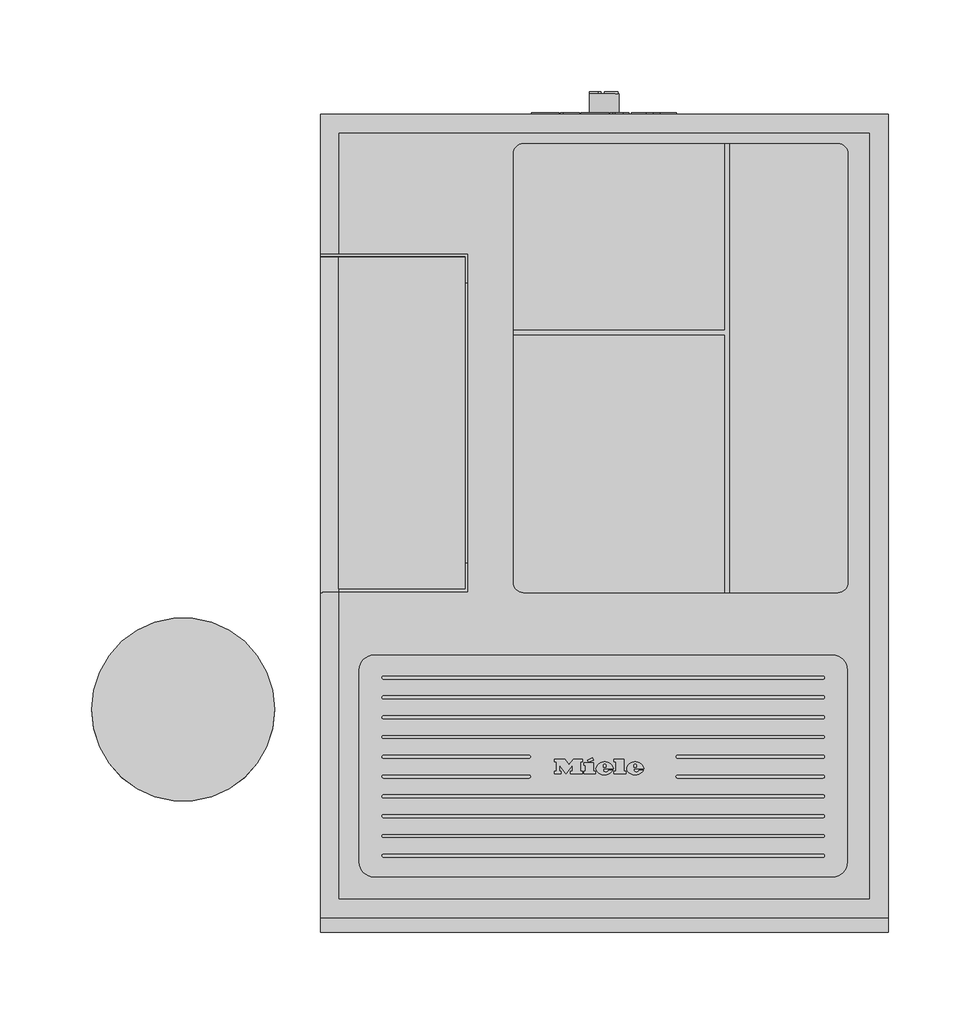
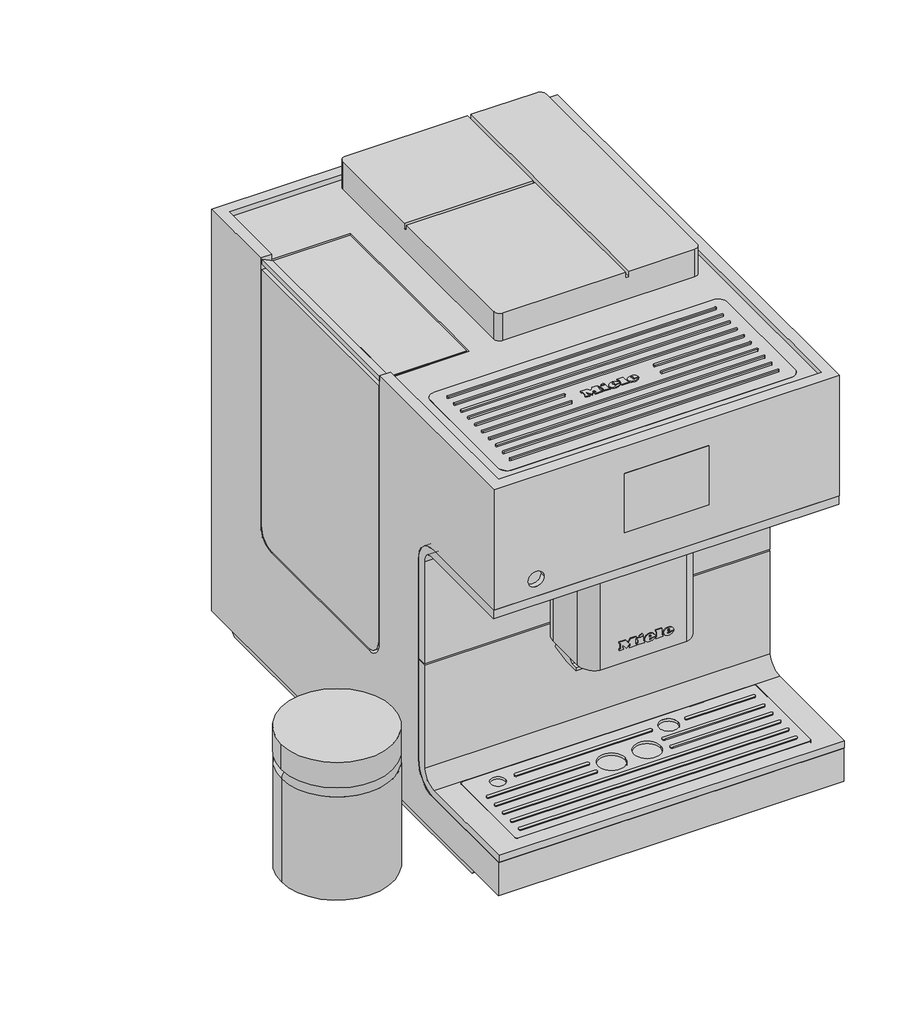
# Not in any storey: 1 proxy.
"""IFC4 building model written with IfcOpenShell, lengths in millimetres."""

from ifc_helpers import new_model, si_unit, origin, place, context, project, spatial, transform, mapped, element, save
from components import specialty_equipment_da40dc9f, specialty_equipment_1049582b, specialty_equipment_5a334f16

model = new_model("IFC4")

# Units and contexts
model_context = context("Model", 3, world=origin())
ifc_project = project(units=[si_unit("LENGTHUNIT", "METRE", prefix="MILLI")], contexts=[model_context])

# Site, building
site = spatial("IfcSite", under=ifc_project)
building = spatial("IfcBuilding", under=site)

# Proxy
placement = place(None, origin())
specialty_equipment_shape = specialty_equipment_da40dc9f(model_context)
specialty_equipment_2_shape = specialty_equipment_1049582b(model_context)
specialty_equipment_3_shape = specialty_equipment_5a334f16(model_context)
element("IfcBuildingElementProxy", 1, Name="11030140_NL_CM7750_OBSW : 29775020_NL_11030140_CM7750_OBSW", ObjectType="11030140_NL_CM7750_OBSW : 29775020_NL_11030140_CM7750_OBSW", at=placement, inside=building, context=model_context, shape_type="MappedRepresentation", body=[
    mapped(specialty_equipment_shape, transform((0.0, 0.0, 0.0), x_axis=(1.0, 0.0, 0.0), y_axis=(0.0, 1.0, 0.0), z_axis=(0.0, 0.0, 1.0))),
    mapped(specialty_equipment_2_shape, transform((0.0, 0.0, 0.0), x_axis=(1.0, 0.0, 0.0), y_axis=(0.0, 1.0, 0.0), z_axis=(0.0, 0.0, 1.0))),
    mapped(specialty_equipment_3_shape, transform((0.0, 0.0, 0.0), x_axis=(1.0, 0.0, 0.0), y_axis=(0.0, 1.0, 0.0), z_axis=(0.0, 0.0, 1.0))),
])

save(model, "model.ifc")
